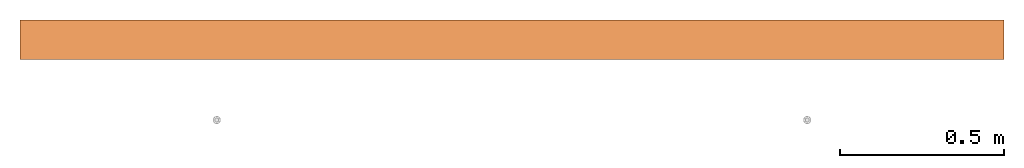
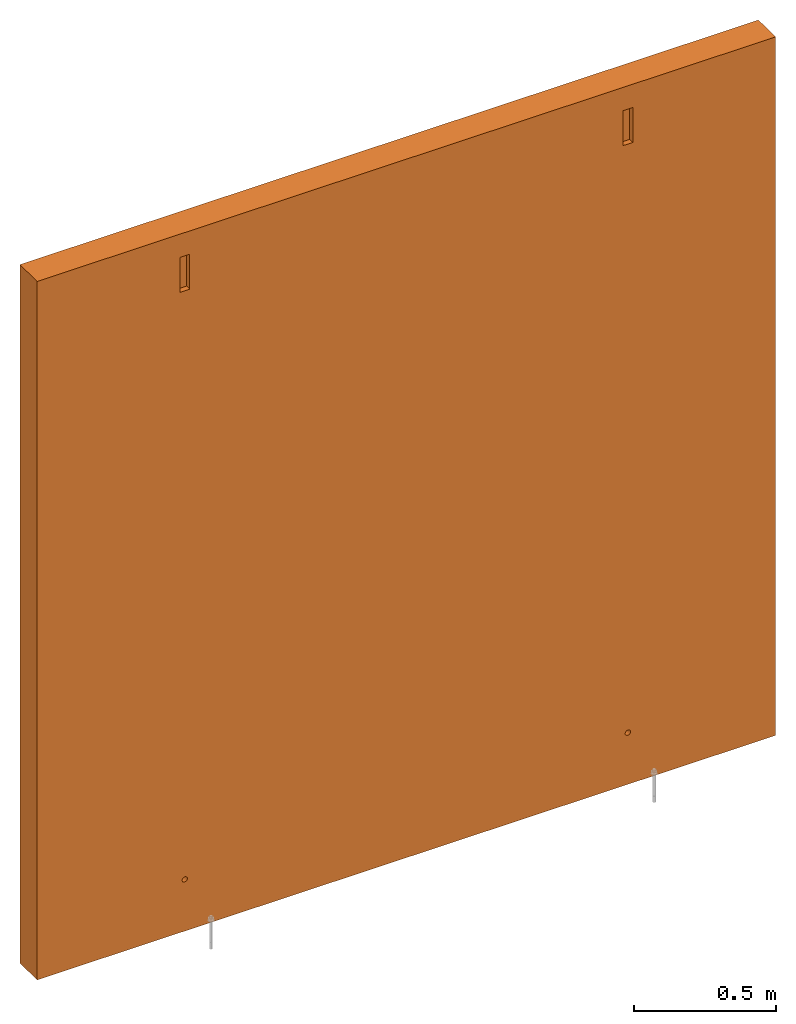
# One storey, part 2 of 2: 1 proxy.
"""IFC2X3 building model written with IfcOpenShell, lengths in metres."""

from ifc_helpers import new_model, entity, si_unit, converted_unit, derived_unit, direction, frame, origin, place, context, subcontext, project, spatial, faceted_brep, source, transform, mapped, material, type_object, type_shapes, element, save


model = new_model("IFC2X3")

# Units and contexts
model_context = context("Model", 3, precision=1e-05, world=origin(), true_north=direction((6.123031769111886e-17, 1.0)))
body_context = subcontext(model_context, "Body", "Model", "MODEL_VIEW")
ifc_project = project(units=[si_unit("LENGTHUNIT", "METRE"), si_unit("AREAUNIT", "SQUARE_METRE"), converted_unit("PLANEANGLEUNIT", "DEGREE", entity("IfcPlaneAngleMeasure", 0.017453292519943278), si_unit("PLANEANGLEUNIT", "RADIAN"), dimensions=[0, 0, 0, 0, 0, 0, 0]), si_unit("VOLUMEUNIT", "CUBIC_METRE"), derived_unit("THERMALTRANSMITTANCEUNIT", [(si_unit("MASSUNIT", "GRAM", prefix="KILO"), 1), (si_unit("THERMODYNAMICTEMPERATUREUNIT", "KELVIN"), -1), (si_unit("TIMEUNIT", "SECOND"), -3)]), derived_unit("USERDEFINED", [(si_unit("MASSUNIT", "GRAM", prefix="KILO"), 1), (si_unit("THERMODYNAMICTEMPERATUREUNIT", "KELVIN"), -1), (si_unit("TIMEUNIT", "SECOND"), -2)]), derived_unit("THERMALRESISTANCEUNIT", [(si_unit("MASSUNIT", "GRAM", prefix="KILO"), -1), (si_unit("TIMEUNIT", "SECOND"), 3), (si_unit("THERMODYNAMICTEMPERATUREUNIT", "KELVIN"), 1)]), derived_unit("MASSDENSITYUNIT", [(si_unit("MASSUNIT", "GRAM", prefix="KILO"), 1), (si_unit("LENGTHUNIT", "METRE"), -3)]), derived_unit("VAPORPERMEABILITYUNIT", [(si_unit("LENGTHUNIT", "METRE"), -1), (si_unit("TIMEUNIT", "SECOND"), 1)]), derived_unit("USERDEFINED", [(si_unit("MASSUNIT", "GRAM", prefix="KILO"), 1), (si_unit("TIMEUNIT", "SECOND"), -3), (si_unit("LENGTHUNIT", "METRE"), 3), (si_unit("ELECTRICCURRENTUNIT", "AMPERE"), -2)]), si_unit("PRESSUREUNIT", "PASCAL")], contexts=[model_context])

# Site, building, storey
site_placement = place(None, origin())
site = spatial("IfcSite", under=ifc_project, at=site_placement, Name="Default", CompositionType="ELEMENT")
building_placement = place(site_placement, origin())
building = spatial("IfcBuilding", under=site, at=building_placement, CompositionType="ELEMENT")
storey_placement = place(building_placement, frame((0.0, 0.0, -3.0)))
storey = spatial("IfcBuildingStorey", under=building, at=storey_placement, Name="B1", CompositionType="ELEMENT", Elevation=-3.0000000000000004)

# Proxy
ifc_material = material(Name="Hormigón reforzado con fibra de vidrio")
building_element_proxy_type = type_object("IfcBuildingElementProxyType", Name="Panel Hormigón:Panel Hormigón", PredefinedType="NOTDEFINED", material=ifc_material)
shared_shape = source(origin(), body_context, "Body", "Brep", [
    faceted_brep([(7.887720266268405, 16.074530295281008, 3.0), (4.887720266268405, 16.07453029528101, 3.0), (4.887720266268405, 15.954530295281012, 3.0), (7.887720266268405, 15.954530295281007, 3.0), (7.887720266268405, 15.954530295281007, 0.0), (4.887720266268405, 15.954530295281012, 0.0), (4.887720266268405, 16.07453029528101, 0.0), (7.887720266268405, 16.074530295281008, 0.0), (5.467570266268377, 15.954530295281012, 2.7499999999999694), (5.46757026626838, 15.954530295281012, 2.8999999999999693), (5.507870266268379, 15.95453029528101, 2.899999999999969), (7.267570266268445, 15.954530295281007, 2.900000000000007), (5.482220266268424, 15.95453029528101, 0.2315262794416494), (5.479942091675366, 15.95453029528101, 0.22977817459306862), (5.478193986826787, 15.95453029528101, 0.22750000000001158), (5.4770950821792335, 15.95453029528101, 0.2248470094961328), (5.476720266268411, 15.954530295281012, 0.22199999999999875), (5.4770950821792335, 15.95453029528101, 0.21915299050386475), (5.478193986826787, 15.95453029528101, 0.21649999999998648), (5.479942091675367, 15.95453029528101, 0.2142218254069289), (5.482220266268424, 15.95453029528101, 0.21247372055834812), (5.484873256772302, 15.95453029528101, 0.21137481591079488), (5.487720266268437, 15.95453029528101, 0.21099999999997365), (5.490567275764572, 15.95453029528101, 0.21137481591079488), (7.284873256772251, 15.954530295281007, 0.21137481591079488), (7.307870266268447, 15.954530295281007, 2.7500000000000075), (7.293220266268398, 15.954530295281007, 0.2315262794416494), (7.295498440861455, 15.954530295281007, 0.22977817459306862), (7.297246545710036, 15.954530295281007, 0.22750000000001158), (7.287720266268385, 15.954530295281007, 0.21099999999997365), (7.29056727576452, 15.954530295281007, 0.21137481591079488), (7.293220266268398, 15.954530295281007, 0.21247372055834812), (7.295498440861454, 15.954530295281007, 0.2142218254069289), (7.297246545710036, 15.954530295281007, 0.21649999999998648), (7.298345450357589, 15.954530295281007, 0.21915299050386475), (7.29872026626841, 15.954530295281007, 0.22199999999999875), (7.298345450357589, 15.954530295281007, 0.2248470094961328), (7.282220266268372, 15.954530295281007, 0.21247372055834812), (5.49322026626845, 15.95453029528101, 0.21247372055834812), (7.2799420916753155, 15.954530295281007, 0.2142218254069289), (5.495498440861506, 15.95453029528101, 0.2142218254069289), (7.278193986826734, 15.954530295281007, 0.21649999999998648), (5.497246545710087, 15.95453029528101, 0.21649999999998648), (7.277095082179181, 15.954530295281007, 0.21915299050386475), (5.4983454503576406, 15.95453029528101, 0.21915299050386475), (7.276720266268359, 15.954530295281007, 0.22199999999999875), (5.498720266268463, 15.95453029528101, 0.22199999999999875), (7.277095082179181, 15.954530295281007, 0.22484700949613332), (5.4983454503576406, 15.95453029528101, 0.22484700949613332), (7.278193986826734, 15.954530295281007, 0.22750000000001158), (5.497246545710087, 15.95453029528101, 0.22750000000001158), (5.495498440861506, 15.95453029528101, 0.22977817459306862), (7.2799420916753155, 15.954530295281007, 0.22977817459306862), (5.49322026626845, 15.95453029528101, 0.2315262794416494), (7.282220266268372, 15.954530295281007, 0.2315262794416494), (5.507870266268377, 15.95453029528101, 2.749999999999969), (7.267570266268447, 15.954530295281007, 2.750000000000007), (7.284873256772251, 15.954530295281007, 0.23262518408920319), (7.287720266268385, 15.954530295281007, 0.23300000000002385), (7.29056727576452, 15.954530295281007, 0.23262518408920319), (7.307870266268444, 15.954530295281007, 2.900000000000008), (5.487720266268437, 15.95453029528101, 0.23300000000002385), (5.490567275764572, 15.95453029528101, 0.23262518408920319), (5.484873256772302, 15.95453029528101, 0.23262518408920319), (5.46757026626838, 15.976605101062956, 2.8999999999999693), (5.507870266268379, 15.976605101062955, 2.899999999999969), (7.267570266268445, 15.976605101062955, 2.900000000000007), (7.307870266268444, 15.976605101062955, 2.900000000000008), (5.4675702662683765, 15.976605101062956, 2.7499999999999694), (5.507870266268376, 15.976605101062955, 2.749999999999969), (7.307870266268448, 15.976605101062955, 2.7500000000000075), (7.267570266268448, 15.976605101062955, 2.750000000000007), (5.487720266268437, 15.999530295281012, 0.2330000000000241), (5.484873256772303, 15.999530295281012, 0.23262518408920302), (5.482220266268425, 15.999530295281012, 0.23152627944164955), (5.479942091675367, 15.999530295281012, 0.22977817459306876), (5.4781939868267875, 15.999530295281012, 0.22750000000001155), (5.4770950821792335, 15.999530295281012, 0.22484700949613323), (5.476720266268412, 15.999530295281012, 0.22199999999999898), (5.4770950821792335, 15.999530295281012, 0.21915299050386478), (5.4781939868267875, 15.999530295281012, 0.21649999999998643), (5.479942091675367, 15.999530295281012, 0.2142218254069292), (5.482220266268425, 15.999530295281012, 0.2124737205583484), (5.484873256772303, 15.999530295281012, 0.21137481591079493), (5.487720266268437, 15.999530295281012, 0.21099999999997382), (5.490567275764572, 15.999530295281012, 0.21137481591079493), (5.49322026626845, 15.999530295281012, 0.21247372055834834), (5.495498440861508, 15.999530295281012, 0.21422182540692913), (5.497246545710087, 15.999530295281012, 0.21649999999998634), (5.498345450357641, 15.999530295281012, 0.21915299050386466), (5.498720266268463, 15.999530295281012, 0.22199999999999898), (5.498345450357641, 15.999530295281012, 0.22484700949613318), (5.497246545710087, 15.999530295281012, 0.22750000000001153), (5.495498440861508, 15.999530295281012, 0.22977817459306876), (5.49322026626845, 15.999530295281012, 0.23152627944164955), (5.490567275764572, 15.999530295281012, 0.232625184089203), (7.284873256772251, 15.99953029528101, 0.232625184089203), (7.282220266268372, 15.99953029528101, 0.23152627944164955), (7.279942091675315, 15.99953029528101, 0.22977817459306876), (7.278193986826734, 15.99953029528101, 0.22750000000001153), (7.27709508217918, 15.99953029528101, 0.22484700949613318), (7.276720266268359, 15.99953029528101, 0.22199999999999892), (7.27709508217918, 15.99953029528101, 0.21915299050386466), (7.278193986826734, 15.99953029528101, 0.21649999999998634), (7.279942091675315, 15.99953029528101, 0.21422182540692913), (7.282220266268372, 15.99953029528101, 0.21247372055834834), (7.284873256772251, 15.99953029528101, 0.21137481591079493), (7.287720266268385, 15.99953029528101, 0.21099999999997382), (7.290567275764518, 15.99953029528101, 0.21137481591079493), (7.2932202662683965, 15.99953029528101, 0.2124737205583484), (7.295498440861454, 15.99953029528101, 0.2142218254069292), (7.297246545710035, 15.99953029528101, 0.21649999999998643), (7.298345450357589, 15.99953029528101, 0.21915299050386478), (7.298720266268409, 15.99953029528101, 0.22199999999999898), (7.298345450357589, 15.99953029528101, 0.22484700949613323), (7.297246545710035, 15.99953029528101, 0.22750000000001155), (7.295498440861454, 15.99953029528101, 0.22977817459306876), (7.2932202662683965, 15.99953029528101, 0.23152627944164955), (7.290567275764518, 15.99953029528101, 0.23262518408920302), (7.287720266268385, 15.99953029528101, 0.2330000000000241)], [[[0, 1, 2, 3]], [[4, 5, 6, 7]], [[2, 1, 6, 5]], [[2, 8, 9]], [[2, 9, 10]], [[2, 10, 11]], [[2, 5, 8]], [[11, 3, 2]], [[12, 8, 5]], [[13, 12, 5]], [[5, 14, 13]], [[15, 14, 5]], [[16, 15, 5]], [[17, 16, 5]], [[17, 5, 18]], [[19, 18, 5]], [[20, 19, 5]], [[5, 21, 20]], [[21, 5, 22]], [[23, 22, 5]], [[5, 24, 23]], [[24, 5, 4]], [[4, 3, 25]], [[4, 25, 26]], [[4, 26, 27]], [[4, 27, 28]], [[29, 24, 4]], [[4, 30, 29]], [[30, 4, 31]], [[32, 31, 4]], [[32, 4, 33]], [[34, 33, 4]], [[35, 34, 4]], [[36, 35, 4]], [[36, 4, 28]], [[37, 23, 24]], [[38, 23, 37]], [[37, 39, 38]], [[40, 38, 39]], [[41, 40, 39]], [[42, 40, 41]], [[41, 43, 42]], [[44, 42, 43]], [[43, 45, 44]], [[46, 44, 45]], [[45, 47, 46]], [[48, 46, 47]], [[48, 47, 49]], [[49, 50, 48]], [[49, 51, 50]], [[52, 51, 49]], [[52, 53, 51]], [[53, 52, 54]], [[55, 53, 54]], [[54, 56, 55]], [[57, 56, 54]], [[58, 56, 57]], [[56, 58, 25]], [[59, 25, 58]], [[59, 26, 25]], [[3, 60, 25]], [[10, 55, 56]], [[56, 11, 10]], [[8, 61, 55]], [[61, 62, 55]], [[55, 62, 53]], [[12, 63, 8]], [[61, 8, 63]], [[60, 3, 11]], [[0, 3, 4, 7]], [[1, 0, 7, 6]], [[9, 64, 65, 10]], [[66, 67, 60, 11]], [[68, 8, 55, 69]], [[56, 25, 70, 71]], [[8, 68, 64, 9]], [[69, 55, 10, 65]], [[69, 65, 64, 68]], [[67, 66, 71, 70]], [[60, 67, 70, 25]], [[66, 11, 56, 71]], [[72, 73, 74, 75, 76, 77, 78, 79, 80, 81, 82, 83, 84, 85, 86, 87, 88, 89, 90, 91, 92, 93, 94, 95]], [[96, 97, 98, 99, 100, 101, 102, 103, 104, 105, 106, 107, 108, 109, 110, 111, 112, 113, 114, 115, 116, 117, 118, 119]], [[78, 16, 17, 79]], [[79, 17, 18, 80]], [[82, 81, 19, 20]], [[19, 81, 80, 18]], [[83, 82, 20, 21]], [[83, 21, 22, 84]], [[84, 22, 23, 85]], [[85, 23, 38, 86]], [[88, 87, 40, 42]], [[40, 87, 86, 38]], [[89, 88, 42, 44]], [[89, 44, 46, 90]], [[90, 46, 48, 91]], [[91, 48, 50, 92]], [[94, 93, 51, 53]], [[51, 93, 92, 50]], [[95, 94, 53, 62]], [[95, 62, 61, 72]], [[72, 61, 63, 73]], [[73, 63, 12, 74]], [[76, 75, 13, 14]], [[13, 75, 74, 12]], [[77, 76, 14, 15]], [[77, 15, 16, 78]], [[112, 34, 35, 113]], [[111, 33, 34, 112]], [[31, 32, 110, 109]], [[111, 110, 32, 33]], [[30, 31, 109, 108]], [[29, 30, 108, 107]], [[106, 24, 29, 107]], [[105, 37, 24, 106]], [[41, 39, 104, 103]], [[105, 104, 39, 37]], [[43, 41, 103, 102]], [[45, 43, 102, 101]], [[100, 47, 45, 101]], [[99, 49, 47, 100]], [[54, 52, 98, 97]], [[99, 98, 52, 49]], [[57, 54, 97, 96]], [[58, 57, 96, 119]], [[118, 59, 58, 119]], [[117, 26, 59, 118]], [[28, 27, 116, 115]], [[117, 116, 27, 26]], [[36, 28, 115, 114]], [[35, 36, 114, 113]]]),
])
type_shapes(building_element_proxy_type, [shared_shape])
proxy_placement = place(storey_placement, frame((0.0, 0.0, 2.85)))
element("IfcBuildingElementProxy", 1, at=proxy_placement, inside=storey, type_object=building_element_proxy_type, material=ifc_material, Name="Panel Hormigón:Panel Hormigón", ObjectType="Panel Hormigón:Panel Hormigón", context=body_context, shape_type="MappedRepresentation", body=[
    mapped(shared_shape, transform((0.0, 0.0, 0.0), scale=1.0)),
])

save(model, "model.ifc")
